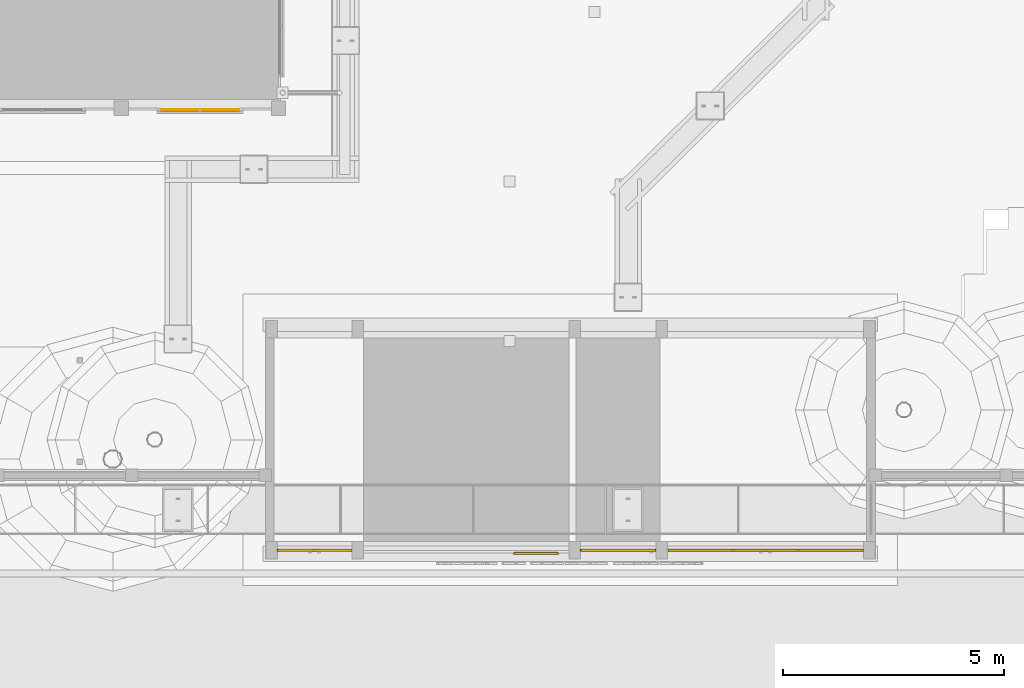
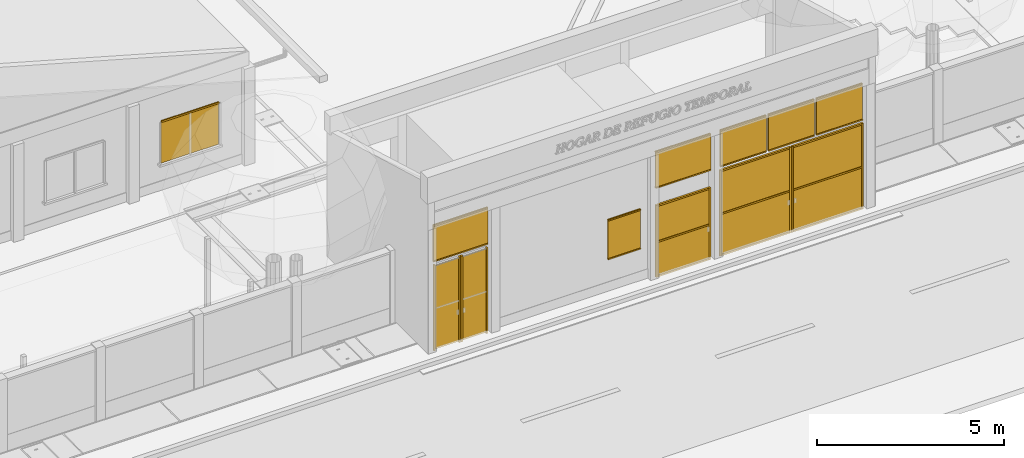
# One storey, part 44 of 177: 24 doors, 20 windows.
"""IFC4 building model written with IfcOpenShell, lengths in metres."""

from ifc_helpers import new_model, si_unit, origin, origin_with_axes, place, context, subcontext, project, spatial, triangles, element, save


model = new_model("IFC4")

# Units and contexts
model_context = context("Model", 3, precision=1e-05, world=origin_with_axes())
body_context = subcontext(model_context, "Body", "Model", "MODEL_VIEW")
ifc_project = project(units=[si_unit("LENGTHUNIT", "METRE"), si_unit("AREAUNIT", "SQUARE_METRE"), si_unit("VOLUMEUNIT", "CUBIC_METRE"), si_unit("PLANEANGLEUNIT", "RADIAN")], contexts=[model_context])

# Site, building, storey
site_placement = place(None, origin_with_axes())
site = spatial("IfcSite", under=ifc_project, at=site_placement, Name="Predio Los Mangos - Morales, San Martín", CompositionType="ELEMENT")
building_placement = place(site_placement, origin())
building = spatial("IfcBuilding", under=site, at=building_placement, Name="Hogar de Refugio Temporal", CompositionType="ELEMENT")
storey_placement = place(building_placement, origin())
storey = spatial("IfcBuildingStorey", under=building, at=storey_placement, Name="NIVEL 1 (NPT +0.00)", CompositionType="ELEMENT", Elevation=0.0)

# Windows
window_1_placement = place(storey_placement, origin())
element("IfcWindow", 1, at=window_1_placement, inside=storey, Name="E-01_vg4_vid", ObjectType="Ventana", PredefinedType="WINDOW", context=body_context, shape_type="Tessellation", body=[
    triangles([(28.93, 26.26, 1.05), (30.71, 26.26, 1.05), (30.71, 26.28, 1.05), (28.93, 26.28, 1.05), (28.93, 26.26, 2.4), (30.71, 26.26, 2.4), (30.71, 26.28, 2.4), (28.93, 26.28, 2.4)], [[1, 4, 3], [1, 3, 2], [5, 6, 7], [5, 7, 8], [1, 2, 6], [1, 6, 5], [2, 3, 7], [2, 7, 6], [3, 4, 8], [3, 8, 7], [4, 1, 5], [4, 5, 8]]),
])
window_2_placement = place(storey_placement, origin())
element("IfcWindow", 2, at=window_2_placement, inside=storey, Name="E-01_vg4_m", ObjectType="Ventana", PredefinedType="WINDOW", context=body_context, shape_type="Tessellation", body=[
    triangles([(28.93, 26.22, 2.4), (30.71, 26.22, 2.4), (30.71, 26.26, 2.4), (28.93, 26.26, 2.4), (28.93, 26.22, 2.45), (30.71, 26.22, 2.45), (30.71, 26.26, 2.45), (28.93, 26.26, 2.45)], [[1, 4, 3], [1, 3, 2], [5, 6, 7], [5, 7, 8], [1, 2, 6], [1, 6, 5], [2, 3, 7], [2, 7, 6], [3, 4, 8], [3, 8, 7], [4, 1, 5], [4, 5, 8]]),
])

# Doors
door_1_placement = place(storey_placement, origin())
element("IfcDoor", 3, at=door_1_placement, inside=storey, Name="oe01_porton_peatonal_plancha", ObjectType="Puerta / portón", PredefinedType="DOOR", context=body_context, shape_type="Tessellation", body=[
    triangles([(31.621, 16.285, 0.09), (32.364, 16.285, 0.09), (32.364, 16.315, 0.09), (31.621, 16.315, 0.09), (31.621, 16.285, 2.81), (32.364, 16.285, 2.81), (32.364, 16.315, 2.81), (31.621, 16.315, 2.81)], [[1, 4, 3], [1, 3, 2], [5, 6, 7], [5, 7, 8], [1, 2, 6], [1, 6, 5], [2, 3, 7], [2, 7, 6], [3, 4, 8], [3, 8, 7], [4, 1, 5], [4, 5, 8]]),
])
door_2_placement = place(storey_placement, origin())
element("IfcDoor", 4, at=door_2_placement, inside=storey, Name="oe01_porton_peatonal_m", ObjectType="Puerta / portón", PredefinedType="DOOR", context=body_context, shape_type="Tessellation", body=[
    triangles([(31.581, 16.27, 0.05), (31.631, 16.27, 0.05), (31.631, 16.33, 0.05), (31.581, 16.33, 0.05), (31.581, 16.27, 2.85), (31.631, 16.27, 2.85), (31.631, 16.33, 2.85), (31.581, 16.33, 2.85)], [[1, 4, 3], [1, 3, 2], [5, 6, 7], [5, 7, 8], [1, 2, 6], [1, 6, 5], [2, 3, 7], [2, 7, 6], [3, 4, 8], [3, 8, 7], [4, 1, 5], [4, 5, 8]]),
])
door_3_placement = place(storey_placement, origin())
element("IfcDoor", 5, at=door_3_placement, inside=storey, Name="oe01_porton_peatonal_m", ObjectType="Puerta / portón", PredefinedType="DOOR", context=body_context, shape_type="Tessellation", body=[
    triangles([(32.354, 16.27, 0.05), (32.404, 16.27, 0.05), (32.404, 16.33, 0.05), (32.354, 16.33, 0.05), (32.354, 16.27, 2.85), (32.404, 16.27, 2.85), (32.404, 16.33, 2.85), (32.354, 16.33, 2.85)], [[1, 4, 3], [1, 3, 2], [5, 6, 7], [5, 7, 8], [1, 2, 6], [1, 6, 5], [2, 3, 7], [2, 7, 6], [3, 4, 8], [3, 8, 7], [4, 1, 5], [4, 5, 8]]),
])
door_4_placement = place(storey_placement, origin())
element("IfcDoor", 6, at=door_4_placement, inside=storey, Name="oe01_porton_peatonal_plancha", ObjectType="Puerta / portón", PredefinedType="DOOR", context=body_context, shape_type="Tessellation", body=[
    triangles([(32.464, 16.285, 0.09), (33.2071, 16.285, 0.09), (33.2071, 16.315, 0.09), (32.464, 16.315, 0.09), (32.464, 16.285, 2.81), (33.2071, 16.285, 2.81), (33.2071, 16.315, 2.81), (32.464, 16.315, 2.81)], [[1, 4, 3], [1, 3, 2], [5, 6, 7], [5, 7, 8], [1, 2, 6], [1, 6, 5], [2, 3, 7], [2, 7, 6], [3, 4, 8], [3, 8, 7], [4, 1, 5], [4, 5, 8]]),
])
door_5_placement = place(storey_placement, origin())
element("IfcDoor", 7, at=door_5_placement, inside=storey, Name="oe01_porton_peatonal_m", ObjectType="Puerta / portón", PredefinedType="DOOR", context=body_context, shape_type="Tessellation", body=[
    triangles([(32.424, 16.27, 0.05), (32.474, 16.27, 0.05), (32.474, 16.33, 0.05), (32.424, 16.33, 0.05), (32.424, 16.27, 2.85), (32.474, 16.27, 2.85), (32.474, 16.33, 2.85), (32.424, 16.33, 2.85)], [[1, 4, 3], [1, 3, 2], [5, 6, 7], [5, 7, 8], [1, 2, 6], [1, 6, 5], [2, 3, 7], [2, 7, 6], [3, 4, 8], [3, 8, 7], [4, 1, 5], [4, 5, 8]]),
])
door_6_placement = place(storey_placement, origin())
element("IfcDoor", 8, at=door_6_placement, inside=storey, Name="oe01_porton_peatonal_m", ObjectType="Puerta / portón", PredefinedType="DOOR", context=body_context, shape_type="Tessellation", body=[
    triangles([(33.1971, 16.27, 0.05), (33.2471, 16.27, 0.05), (33.2471, 16.33, 0.05), (33.1971, 16.33, 0.05), (33.1971, 16.27, 2.85), (33.2471, 16.27, 2.85), (33.2471, 16.33, 2.85), (33.1971, 16.33, 2.85)], [[1, 4, 3], [1, 3, 2], [5, 6, 7], [5, 7, 8], [1, 2, 6], [1, 6, 5], [2, 3, 7], [2, 7, 6], [3, 4, 8], [3, 8, 7], [4, 1, 5], [4, 5, 8]]),
])

# Windows
window_3_placement = place(storey_placement, origin())
element("IfcWindow", 9, at=window_3_placement, inside=storey, Name="oe01_celosia1", ObjectType="Ventana / paño metálico", PredefinedType="WINDOW", context=body_context, shape_type="Tessellation", body=[
    triangles([(31.571, 16.28, 2.95), (33.2571, 16.28, 2.95), (33.2571, 16.32, 2.95), (31.571, 16.32, 2.95), (31.571, 16.28, 4.15), (33.2571, 16.28, 4.15), (33.2571, 16.32, 4.15), (31.571, 16.32, 4.15)], [[1, 4, 3], [1, 3, 2], [5, 6, 7], [5, 7, 8], [1, 2, 6], [1, 6, 5], [2, 3, 7], [2, 7, 6], [3, 4, 8], [3, 8, 7], [4, 1, 5], [4, 5, 8]]),
])
window_4_placement = place(storey_placement, origin())
element("IfcWindow", 10, at=window_4_placement, inside=storey, Name="oe01_celosia1_marco", ObjectType="Ventana / paño metálico", PredefinedType="WINDOW", context=body_context, shape_type="Tessellation", body=[
    triangles([(31.571, 16.27, 2.95), (33.2571, 16.27, 2.95), (33.2571, 16.33, 2.95), (31.571, 16.33, 2.95), (31.571, 16.27, 2.99), (33.2571, 16.27, 2.99), (33.2571, 16.33, 2.99), (31.571, 16.33, 2.99)], [[1, 4, 3], [1, 3, 2], [5, 6, 7], [5, 7, 8], [1, 2, 6], [1, 6, 5], [2, 3, 7], [2, 7, 6], [3, 4, 8], [3, 8, 7], [4, 1, 5], [4, 5, 8]]),
])
window_5_placement = place(storey_placement, origin())
element("IfcWindow", 11, at=window_5_placement, inside=storey, Name="oe01_celosia1_marco", ObjectType="Ventana / paño metálico", PredefinedType="WINDOW", context=body_context, shape_type="Tessellation", body=[
    triangles([(31.571, 16.27, 4.11), (33.2571, 16.27, 4.11), (33.2571, 16.33, 4.11), (31.571, 16.33, 4.11), (31.571, 16.27, 4.15), (33.2571, 16.27, 4.15), (33.2571, 16.33, 4.15), (31.571, 16.33, 4.15)], [[1, 4, 3], [1, 3, 2], [5, 6, 7], [5, 7, 8], [1, 2, 6], [1, 6, 5], [2, 3, 7], [2, 7, 6], [3, 4, 8], [3, 8, 7], [4, 1, 5], [4, 5, 8]]),
])
window_6_placement = place(storey_placement, origin())
element("IfcWindow", 12, at=window_6_placement, inside=storey, Name="oe01_ventana", ObjectType="Ventana / paño metálico", PredefinedType="WINDOW", context=body_context, shape_type="Tessellation", body=[
    triangles([(36.9204, 16.21, 1.2), (37.924, 16.21, 1.2), (37.924, 16.25, 1.2), (36.9204, 16.25, 1.2), (36.9204, 16.21, 2.5), (37.924, 16.21, 2.5), (37.924, 16.25, 2.5), (36.9204, 16.25, 2.5)], [[1, 4, 3], [1, 3, 2], [5, 6, 7], [5, 7, 8], [1, 2, 6], [1, 6, 5], [2, 3, 7], [2, 7, 6], [3, 4, 8], [3, 8, 7], [4, 1, 5], [4, 5, 8]]),
])
window_7_placement = place(storey_placement, origin())
element("IfcWindow", 13, at=window_7_placement, inside=storey, Name="oe01_ventana_marco", ObjectType="Ventana / paño metálico", PredefinedType="WINDOW", context=body_context, shape_type="Tessellation", body=[
    triangles([(36.9204, 16.2, 1.2), (37.924, 16.2, 1.2), (37.924, 16.26, 1.2), (36.9204, 16.26, 1.2), (36.9204, 16.2, 1.24), (37.924, 16.2, 1.24), (37.924, 16.26, 1.24), (36.9204, 16.26, 1.24)], [[1, 4, 3], [1, 3, 2], [5, 6, 7], [5, 7, 8], [1, 2, 6], [1, 6, 5], [2, 3, 7], [2, 7, 6], [3, 4, 8], [3, 8, 7], [4, 1, 5], [4, 5, 8]]),
])
window_8_placement = place(storey_placement, origin())
element("IfcWindow", 14, at=window_8_placement, inside=storey, Name="oe01_ventana_marco", ObjectType="Ventana / paño metálico", PredefinedType="WINDOW", context=body_context, shape_type="Tessellation", body=[
    triangles([(36.9204, 16.2, 2.46), (37.924, 16.2, 2.46), (37.924, 16.26, 2.46), (36.9204, 16.26, 2.46), (36.9204, 16.2, 2.5), (37.924, 16.2, 2.5), (37.924, 16.26, 2.5), (36.9204, 16.26, 2.5)], [[1, 4, 3], [1, 3, 2], [5, 6, 7], [5, 7, 8], [1, 2, 6], [1, 6, 5], [2, 3, 7], [2, 7, 6], [3, 4, 8], [3, 8, 7], [4, 1, 5], [4, 5, 8]]),
])

# Doors
door_7_placement = place(storey_placement, origin())
element("IfcDoor", 15, at=door_7_placement, inside=storey, Name="oe01_puerta_plancha", ObjectType="Puerta / portón", PredefinedType="DOOR", context=body_context, shape_type="Tessellation", body=[
    triangles([(38.4758, 16.285, 0.09), (40.082, 16.285, 0.09), (40.082, 16.315, 0.09), (38.4758, 16.315, 0.09), (38.4758, 16.285, 2.36), (40.082, 16.285, 2.36), (40.082, 16.315, 2.36), (38.4758, 16.315, 2.36)], [[1, 4, 3], [1, 3, 2], [5, 6, 7], [5, 7, 8], [1, 2, 6], [1, 6, 5], [2, 3, 7], [2, 7, 6], [3, 4, 8], [3, 8, 7], [4, 1, 5], [4, 5, 8]]),
])
door_8_placement = place(storey_placement, origin())
element("IfcDoor", 16, at=door_8_placement, inside=storey, Name="oe01_puerta_m", ObjectType="Puerta / portón", PredefinedType="DOOR", context=body_context, shape_type="Tessellation", body=[
    triangles([(38.4358, 16.27, 0.05), (40.122, 16.27, 0.05), (40.122, 16.33, 0.05), (38.4358, 16.33, 0.05), (38.4358, 16.27, 0.1), (40.122, 16.27, 0.1), (40.122, 16.33, 0.1), (38.4358, 16.33, 0.1)], [[1, 4, 3], [1, 3, 2], [5, 6, 7], [5, 7, 8], [1, 2, 6], [1, 6, 5], [2, 3, 7], [2, 7, 6], [3, 4, 8], [3, 8, 7], [4, 1, 5], [4, 5, 8]]),
])
door_9_placement = place(storey_placement, origin())
element("IfcDoor", 17, at=door_9_placement, inside=storey, Name="oe01_puerta_m", ObjectType="Puerta / portón", PredefinedType="DOOR", context=body_context, shape_type="Tessellation", body=[
    triangles([(38.4358, 16.27, 2.35), (40.122, 16.27, 2.35), (40.122, 16.33, 2.35), (38.4358, 16.33, 2.35), (38.4358, 16.27, 2.4), (40.122, 16.27, 2.4), (40.122, 16.33, 2.4), (38.4358, 16.33, 2.4)], [[1, 4, 3], [1, 3, 2], [5, 6, 7], [5, 7, 8], [1, 2, 6], [1, 6, 5], [2, 3, 7], [2, 7, 6], [3, 4, 8], [3, 8, 7], [4, 1, 5], [4, 5, 8]]),
])
door_10_placement = place(storey_placement, origin())
element("IfcDoor", 18, at=door_10_placement, inside=storey, Name="oe01_puerta_m", ObjectType="Puerta / portón", PredefinedType="DOOR", context=body_context, shape_type="Tessellation", body=[
    triangles([(38.4358, 16.27, 0.05), (38.4858, 16.27, 0.05), (38.4858, 16.33, 0.05), (38.4358, 16.33, 0.05), (38.4358, 16.27, 2.4), (38.4858, 16.27, 2.4), (38.4858, 16.33, 2.4), (38.4358, 16.33, 2.4)], [[1, 4, 3], [1, 3, 2], [5, 6, 7], [5, 7, 8], [1, 2, 6], [1, 6, 5], [2, 3, 7], [2, 7, 6], [3, 4, 8], [3, 8, 7], [4, 1, 5], [4, 5, 8]]),
])
door_11_placement = place(storey_placement, origin())
element("IfcDoor", 19, at=door_11_placement, inside=storey, Name="oe01_puerta_m", ObjectType="Puerta / portón", PredefinedType="DOOR", context=body_context, shape_type="Tessellation", body=[
    triangles([(40.072, 16.27, 0.05), (40.122, 16.27, 0.05), (40.122, 16.33, 0.05), (40.072, 16.33, 0.05), (40.072, 16.27, 2.4), (40.122, 16.27, 2.4), (40.122, 16.33, 2.4), (40.072, 16.33, 2.4)], [[1, 4, 3], [1, 3, 2], [5, 6, 7], [5, 7, 8], [1, 2, 6], [1, 6, 5], [2, 3, 7], [2, 7, 6], [3, 4, 8], [3, 8, 7], [4, 1, 5], [4, 5, 8]]),
])
door_12_placement = place(storey_placement, origin())
element("IfcDoor", 20, at=door_12_placement, inside=storey, Name="oe01_puerta_m", ObjectType="Puerta / portón", PredefinedType="DOOR", context=body_context, shape_type="Tessellation", body=[
    triangles([(38.4358, 16.27, 1.175), (40.122, 16.27, 1.175), (40.122, 16.33, 1.175), (38.4358, 16.33, 1.175), (38.4358, 16.27, 1.225), (40.122, 16.27, 1.225), (40.122, 16.33, 1.225), (38.4358, 16.33, 1.225)], [[1, 4, 3], [1, 3, 2], [5, 6, 7], [5, 7, 8], [1, 2, 6], [1, 6, 5], [2, 3, 7], [2, 7, 6], [3, 4, 8], [3, 8, 7], [4, 1, 5], [4, 5, 8]]),
])

# Windows
window_9_placement = place(storey_placement, origin())
element("IfcWindow", 21, at=window_9_placement, inside=storey, Name="oe01_celosia3", ObjectType="Ventana / paño metálico", PredefinedType="WINDOW", context=body_context, shape_type="Tessellation", body=[
    triangles([(38.4258, 16.28, 2.95), (40.132, 16.28, 2.95), (40.132, 16.32, 2.95), (38.4258, 16.32, 2.95), (38.4258, 16.28, 4.15), (40.132, 16.28, 4.15), (40.132, 16.32, 4.15), (38.4258, 16.32, 4.15)], [[1, 4, 3], [1, 3, 2], [5, 6, 7], [5, 7, 8], [1, 2, 6], [1, 6, 5], [2, 3, 7], [2, 7, 6], [3, 4, 8], [3, 8, 7], [4, 1, 5], [4, 5, 8]]),
])
window_10_placement = place(storey_placement, origin())
element("IfcWindow", 22, at=window_10_placement, inside=storey, Name="oe01_celosia3_marco", ObjectType="Ventana / paño metálico", PredefinedType="WINDOW", context=body_context, shape_type="Tessellation", body=[
    triangles([(38.4258, 16.27, 2.95), (40.132, 16.27, 2.95), (40.132, 16.33, 2.95), (38.4258, 16.33, 2.95), (38.4258, 16.27, 2.99), (40.132, 16.27, 2.99), (40.132, 16.33, 2.99), (38.4258, 16.33, 2.99)], [[1, 4, 3], [1, 3, 2], [5, 6, 7], [5, 7, 8], [1, 2, 6], [1, 6, 5], [2, 3, 7], [2, 7, 6], [3, 4, 8], [3, 8, 7], [4, 1, 5], [4, 5, 8]]),
])
window_11_placement = place(storey_placement, origin())
element("IfcWindow", 23, at=window_11_placement, inside=storey, Name="oe01_celosia3_marco", ObjectType="Ventana / paño metálico", PredefinedType="WINDOW", context=body_context, shape_type="Tessellation", body=[
    triangles([(38.4258, 16.27, 4.11), (40.132, 16.27, 4.11), (40.132, 16.33, 4.11), (38.4258, 16.33, 4.11), (38.4258, 16.27, 4.15), (40.132, 16.27, 4.15), (40.132, 16.33, 4.15), (38.4258, 16.33, 4.15)], [[1, 4, 3], [1, 3, 2], [5, 6, 7], [5, 7, 8], [1, 2, 6], [1, 6, 5], [2, 3, 7], [2, 7, 6], [3, 4, 8], [3, 8, 7], [4, 1, 5], [4, 5, 8]]),
])

# Doors
door_13_placement = place(storey_placement, origin())
element("IfcDoor", 24, at=door_13_placement, inside=storey, Name="oe01_porton_vehicular_plancha", ObjectType="Puerta / portón", PredefinedType="DOOR", context=body_context, shape_type="Tessellation", body=[
    triangles([(40.4429, 16.285, 0.09), (42.566, 16.285, 0.09), (42.566, 16.315, 0.09), (40.4429, 16.315, 0.09), (40.4429, 16.285, 2.81), (42.566, 16.285, 2.81), (42.566, 16.315, 2.81), (40.4429, 16.315, 2.81)], [[1, 4, 3], [1, 3, 2], [5, 6, 7], [5, 7, 8], [1, 2, 6], [1, 6, 5], [2, 3, 7], [2, 7, 6], [3, 4, 8], [3, 8, 7], [4, 1, 5], [4, 5, 8]]),
])
door_14_placement = place(storey_placement, origin())
element("IfcDoor", 25, at=door_14_placement, inside=storey, Name="oe01_porton_vehicular_m", ObjectType="Puerta / portón", PredefinedType="DOOR", context=body_context, shape_type="Tessellation", body=[
    triangles([(40.4029, 16.27, 0.05), (42.606, 16.27, 0.05), (42.606, 16.33, 0.05), (40.4029, 16.33, 0.05), (40.4029, 16.27, 0.1), (42.606, 16.27, 0.1), (42.606, 16.33, 0.1), (40.4029, 16.33, 0.1)], [[1, 4, 3], [1, 3, 2], [5, 6, 7], [5, 7, 8], [1, 2, 6], [1, 6, 5], [2, 3, 7], [2, 7, 6], [3, 4, 8], [3, 8, 7], [4, 1, 5], [4, 5, 8]]),
])
door_15_placement = place(storey_placement, origin())
element("IfcDoor", 26, at=door_15_placement, inside=storey, Name="oe01_porton_vehicular_m", ObjectType="Puerta / portón", PredefinedType="DOOR", context=body_context, shape_type="Tessellation", body=[
    triangles([(40.4029, 16.27, 2.8), (42.606, 16.27, 2.8), (42.606, 16.33, 2.8), (40.4029, 16.33, 2.8), (40.4029, 16.27, 2.85), (42.606, 16.27, 2.85), (42.606, 16.33, 2.85), (40.4029, 16.33, 2.85)], [[1, 4, 3], [1, 3, 2], [5, 6, 7], [5, 7, 8], [1, 2, 6], [1, 6, 5], [2, 3, 7], [2, 7, 6], [3, 4, 8], [3, 8, 7], [4, 1, 5], [4, 5, 8]]),
])
door_16_placement = place(storey_placement, origin())
element("IfcDoor", 27, at=door_16_placement, inside=storey, Name="oe01_porton_vehicular_m", ObjectType="Puerta / portón", PredefinedType="DOOR", context=body_context, shape_type="Tessellation", body=[
    triangles([(40.4029, 16.27, 0.05), (40.4529, 16.27, 0.05), (40.4529, 16.33, 0.05), (40.4029, 16.33, 0.05), (40.4029, 16.27, 2.85), (40.4529, 16.27, 2.85), (40.4529, 16.33, 2.85), (40.4029, 16.33, 2.85)], [[1, 4, 3], [1, 3, 2], [5, 6, 7], [5, 7, 8], [1, 2, 6], [1, 6, 5], [2, 3, 7], [2, 7, 6], [3, 4, 8], [3, 8, 7], [4, 1, 5], [4, 5, 8]]),
])
door_17_placement = place(storey_placement, origin())
element("IfcDoor", 28, at=door_17_placement, inside=storey, Name="oe01_porton_vehicular_m", ObjectType="Puerta / portón", PredefinedType="DOOR", context=body_context, shape_type="Tessellation", body=[
    triangles([(42.556, 16.27, 0.05), (42.606, 16.27, 0.05), (42.606, 16.33, 0.05), (42.556, 16.33, 0.05), (42.556, 16.27, 2.85), (42.606, 16.27, 2.85), (42.606, 16.33, 2.85), (42.556, 16.33, 2.85)], [[1, 4, 3], [1, 3, 2], [5, 6, 7], [5, 7, 8], [1, 2, 6], [1, 6, 5], [2, 3, 7], [2, 7, 6], [3, 4, 8], [3, 8, 7], [4, 1, 5], [4, 5, 8]]),
])
door_18_placement = place(storey_placement, origin())
element("IfcDoor", 29, at=door_18_placement, inside=storey, Name="oe01_porton_vehicular_m", ObjectType="Puerta / portón", PredefinedType="DOOR", context=body_context, shape_type="Tessellation", body=[
    triangles([(40.4029, 16.27, 1.4), (42.606, 16.27, 1.4), (42.606, 16.33, 1.4), (40.4029, 16.33, 1.4), (40.4029, 16.27, 1.45), (42.606, 16.27, 1.45), (42.606, 16.33, 1.45), (40.4029, 16.33, 1.45)], [[1, 4, 3], [1, 3, 2], [5, 6, 7], [5, 7, 8], [1, 2, 6], [1, 6, 5], [2, 3, 7], [2, 7, 6], [3, 4, 8], [3, 8, 7], [4, 1, 5], [4, 5, 8]]),
])
door_19_placement = place(storey_placement, origin())
element("IfcDoor", 30, at=door_19_placement, inside=storey, Name="oe01_porton_vehicular_plancha", ObjectType="Puerta / portón", PredefinedType="DOOR", context=body_context, shape_type="Tessellation", body=[
    triangles([(42.666, 16.285, 0.09), (44.7891, 16.285, 0.09), (44.7891, 16.315, 0.09), (42.666, 16.315, 0.09), (42.666, 16.285, 2.81), (44.7891, 16.285, 2.81), (44.7891, 16.315, 2.81), (42.666, 16.315, 2.81)], [[1, 4, 3], [1, 3, 2], [5, 6, 7], [5, 7, 8], [1, 2, 6], [1, 6, 5], [2, 3, 7], [2, 7, 6], [3, 4, 8], [3, 8, 7], [4, 1, 5], [4, 5, 8]]),
])
door_20_placement = place(storey_placement, origin())
element("IfcDoor", 31, at=door_20_placement, inside=storey, Name="oe01_porton_vehicular_m", ObjectType="Puerta / portón", PredefinedType="DOOR", context=body_context, shape_type="Tessellation", body=[
    triangles([(42.626, 16.27, 0.05), (44.8291, 16.27, 0.05), (44.8291, 16.33, 0.05), (42.626, 16.33, 0.05), (42.626, 16.27, 0.1), (44.8291, 16.27, 0.1), (44.8291, 16.33, 0.1), (42.626, 16.33, 0.1)], [[1, 4, 3], [1, 3, 2], [5, 6, 7], [5, 7, 8], [1, 2, 6], [1, 6, 5], [2, 3, 7], [2, 7, 6], [3, 4, 8], [3, 8, 7], [4, 1, 5], [4, 5, 8]]),
])
door_21_placement = place(storey_placement, origin())
element("IfcDoor", 32, at=door_21_placement, inside=storey, Name="oe01_porton_vehicular_m", ObjectType="Puerta / portón", PredefinedType="DOOR", context=body_context, shape_type="Tessellation", body=[
    triangles([(42.626, 16.27, 2.8), (44.8291, 16.27, 2.8), (44.8291, 16.33, 2.8), (42.626, 16.33, 2.8), (42.626, 16.27, 2.85), (44.8291, 16.27, 2.85), (44.8291, 16.33, 2.85), (42.626, 16.33, 2.85)], [[1, 4, 3], [1, 3, 2], [5, 6, 7], [5, 7, 8], [1, 2, 6], [1, 6, 5], [2, 3, 7], [2, 7, 6], [3, 4, 8], [3, 8, 7], [4, 1, 5], [4, 5, 8]]),
])
door_22_placement = place(storey_placement, origin())
element("IfcDoor", 33, at=door_22_placement, inside=storey, Name="oe01_porton_vehicular_m", ObjectType="Puerta / portón", PredefinedType="DOOR", context=body_context, shape_type="Tessellation", body=[
    triangles([(42.626, 16.27, 0.05), (42.676, 16.27, 0.05), (42.676, 16.33, 0.05), (42.626, 16.33, 0.05), (42.626, 16.27, 2.85), (42.676, 16.27, 2.85), (42.676, 16.33, 2.85), (42.626, 16.33, 2.85)], [[1, 4, 3], [1, 3, 2], [5, 6, 7], [5, 7, 8], [1, 2, 6], [1, 6, 5], [2, 3, 7], [2, 7, 6], [3, 4, 8], [3, 8, 7], [4, 1, 5], [4, 5, 8]]),
])
door_23_placement = place(storey_placement, origin())
element("IfcDoor", 34, at=door_23_placement, inside=storey, Name="oe01_porton_vehicular_m", ObjectType="Puerta / portón", PredefinedType="DOOR", context=body_context, shape_type="Tessellation", body=[
    triangles([(44.7791, 16.27, 0.05), (44.8291, 16.27, 0.05), (44.8291, 16.33, 0.05), (44.7791, 16.33, 0.05), (44.7791, 16.27, 2.85), (44.8291, 16.27, 2.85), (44.8291, 16.33, 2.85), (44.7791, 16.33, 2.85)], [[1, 4, 3], [1, 3, 2], [5, 6, 7], [5, 7, 8], [1, 2, 6], [1, 6, 5], [2, 3, 7], [2, 7, 6], [3, 4, 8], [3, 8, 7], [4, 1, 5], [4, 5, 8]]),
])
door_24_placement = place(storey_placement, origin())
element("IfcDoor", 35, at=door_24_placement, inside=storey, Name="oe01_porton_vehicular_m", ObjectType="Puerta / portón", PredefinedType="DOOR", context=body_context, shape_type="Tessellation", body=[
    triangles([(42.626, 16.27, 1.4), (44.8291, 16.27, 1.4), (44.8291, 16.33, 1.4), (42.626, 16.33, 1.4), (42.626, 16.27, 1.45), (44.8291, 16.27, 1.45), (44.8291, 16.33, 1.45), (42.626, 16.33, 1.45)], [[1, 4, 3], [1, 3, 2], [5, 6, 7], [5, 7, 8], [1, 2, 6], [1, 6, 5], [2, 3, 7], [2, 7, 6], [3, 4, 8], [3, 8, 7], [4, 1, 5], [4, 5, 8]]),
])

# Windows
window_12_placement = place(storey_placement, origin())
element("IfcWindow", 36, at=window_12_placement, inside=storey, Name="oe01_celosia4", ObjectType="Ventana / paño metálico", PredefinedType="WINDOW", context=body_context, shape_type="Tessellation", body=[
    triangles([(40.4229, 16.28, 2.95), (41.845, 16.28, 2.95), (41.845, 16.32, 2.95), (40.4229, 16.32, 2.95), (40.4229, 16.28, 4.15), (41.845, 16.28, 4.15), (41.845, 16.32, 4.15), (40.4229, 16.32, 4.15)], [[1, 4, 3], [1, 3, 2], [5, 6, 7], [5, 7, 8], [1, 2, 6], [1, 6, 5], [2, 3, 7], [2, 7, 6], [3, 4, 8], [3, 8, 7], [4, 1, 5], [4, 5, 8]]),
])
window_13_placement = place(storey_placement, origin())
element("IfcWindow", 37, at=window_13_placement, inside=storey, Name="oe01_celosia4_marco", ObjectType="Ventana / paño metálico", PredefinedType="WINDOW", context=body_context, shape_type="Tessellation", body=[
    triangles([(40.4229, 16.27, 2.95), (41.845, 16.27, 2.95), (41.845, 16.33, 2.95), (40.4229, 16.33, 2.95), (40.4229, 16.27, 2.99), (41.845, 16.27, 2.99), (41.845, 16.33, 2.99), (40.4229, 16.33, 2.99)], [[1, 4, 3], [1, 3, 2], [5, 6, 7], [5, 7, 8], [1, 2, 6], [1, 6, 5], [2, 3, 7], [2, 7, 6], [3, 4, 8], [3, 8, 7], [4, 1, 5], [4, 5, 8]]),
])
window_14_placement = place(storey_placement, origin())
element("IfcWindow", 38, at=window_14_placement, inside=storey, Name="oe01_celosia4_marco", ObjectType="Ventana / paño metálico", PredefinedType="WINDOW", context=body_context, shape_type="Tessellation", body=[
    triangles([(40.4229, 16.27, 4.11), (41.845, 16.27, 4.11), (41.845, 16.33, 4.11), (40.4229, 16.33, 4.11), (40.4229, 16.27, 4.15), (41.845, 16.27, 4.15), (41.845, 16.33, 4.15), (40.4229, 16.33, 4.15)], [[1, 4, 3], [1, 3, 2], [5, 6, 7], [5, 7, 8], [1, 2, 6], [1, 6, 5], [2, 3, 7], [2, 7, 6], [3, 4, 8], [3, 8, 7], [4, 1, 5], [4, 5, 8]]),
])
window_15_placement = place(storey_placement, origin())
element("IfcWindow", 39, at=window_15_placement, inside=storey, Name="oe01_celosia4", ObjectType="Ventana / paño metálico", PredefinedType="WINDOW", context=body_context, shape_type="Tessellation", body=[
    triangles([(41.905, 16.28, 2.95), (43.327, 16.28, 2.95), (43.327, 16.32, 2.95), (41.905, 16.32, 2.95), (41.905, 16.28, 4.15), (43.327, 16.28, 4.15), (43.327, 16.32, 4.15), (41.905, 16.32, 4.15)], [[1, 4, 3], [1, 3, 2], [5, 6, 7], [5, 7, 8], [1, 2, 6], [1, 6, 5], [2, 3, 7], [2, 7, 6], [3, 4, 8], [3, 8, 7], [4, 1, 5], [4, 5, 8]]),
])
window_16_placement = place(storey_placement, origin())
element("IfcWindow", 40, at=window_16_placement, inside=storey, Name="oe01_celosia4_marco", ObjectType="Ventana / paño metálico", PredefinedType="WINDOW", context=body_context, shape_type="Tessellation", body=[
    triangles([(41.905, 16.27, 2.95), (43.327, 16.27, 2.95), (43.327, 16.33, 2.95), (41.905, 16.33, 2.95), (41.905, 16.27, 2.99), (43.327, 16.27, 2.99), (43.327, 16.33, 2.99), (41.905, 16.33, 2.99)], [[1, 4, 3], [1, 3, 2], [5, 6, 7], [5, 7, 8], [1, 2, 6], [1, 6, 5], [2, 3, 7], [2, 7, 6], [3, 4, 8], [3, 8, 7], [4, 1, 5], [4, 5, 8]]),
])
window_17_placement = place(storey_placement, origin())
element("IfcWindow", 41, at=window_17_placement, inside=storey, Name="oe01_celosia4_marco", ObjectType="Ventana / paño metálico", PredefinedType="WINDOW", context=body_context, shape_type="Tessellation", body=[
    triangles([(41.905, 16.27, 4.11), (43.327, 16.27, 4.11), (43.327, 16.33, 4.11), (41.905, 16.33, 4.11), (41.905, 16.27, 4.15), (43.327, 16.27, 4.15), (43.327, 16.33, 4.15), (41.905, 16.33, 4.15)], [[1, 4, 3], [1, 3, 2], [5, 6, 7], [5, 7, 8], [1, 2, 6], [1, 6, 5], [2, 3, 7], [2, 7, 6], [3, 4, 8], [3, 8, 7], [4, 1, 5], [4, 5, 8]]),
])
window_18_placement = place(storey_placement, origin())
element("IfcWindow", 42, at=window_18_placement, inside=storey, Name="oe01_celosia4", ObjectType="Ventana / paño metálico", PredefinedType="WINDOW", context=body_context, shape_type="Tessellation", body=[
    triangles([(43.387, 16.28, 2.95), (44.8091, 16.28, 2.95), (44.8091, 16.32, 2.95), (43.387, 16.32, 2.95), (43.387, 16.28, 4.15), (44.8091, 16.28, 4.15), (44.8091, 16.32, 4.15), (43.387, 16.32, 4.15)], [[1, 4, 3], [1, 3, 2], [5, 6, 7], [5, 7, 8], [1, 2, 6], [1, 6, 5], [2, 3, 7], [2, 7, 6], [3, 4, 8], [3, 8, 7], [4, 1, 5], [4, 5, 8]]),
])
window_19_placement = place(storey_placement, origin())
element("IfcWindow", 43, at=window_19_placement, inside=storey, Name="oe01_celosia4_marco", ObjectType="Ventana / paño metálico", PredefinedType="WINDOW", context=body_context, shape_type="Tessellation", body=[
    triangles([(43.387, 16.27, 2.95), (44.8091, 16.27, 2.95), (44.8091, 16.33, 2.95), (43.387, 16.33, 2.95), (43.387, 16.27, 2.99), (44.8091, 16.27, 2.99), (44.8091, 16.33, 2.99), (43.387, 16.33, 2.99)], [[1, 4, 3], [1, 3, 2], [5, 6, 7], [5, 7, 8], [1, 2, 6], [1, 6, 5], [2, 3, 7], [2, 7, 6], [3, 4, 8], [3, 8, 7], [4, 1, 5], [4, 5, 8]]),
])
window_20_placement = place(storey_placement, origin())
element("IfcWindow", 44, at=window_20_placement, inside=storey, Name="oe01_celosia4_marco", ObjectType="Ventana / paño metálico", PredefinedType="WINDOW", context=body_context, shape_type="Tessellation", body=[
    triangles([(43.387, 16.27, 4.11), (44.8091, 16.27, 4.11), (44.8091, 16.33, 4.11), (43.387, 16.33, 4.11), (43.387, 16.27, 4.15), (44.8091, 16.27, 4.15), (44.8091, 16.33, 4.15), (43.387, 16.33, 4.15)], [[1, 4, 3], [1, 3, 2], [5, 6, 7], [5, 7, 8], [1, 2, 6], [1, 6, 5], [2, 3, 7], [2, 7, 6], [3, 4, 8], [3, 8, 7], [4, 1, 5], [4, 5, 8]]),
])

save(model, "model.ifc")
